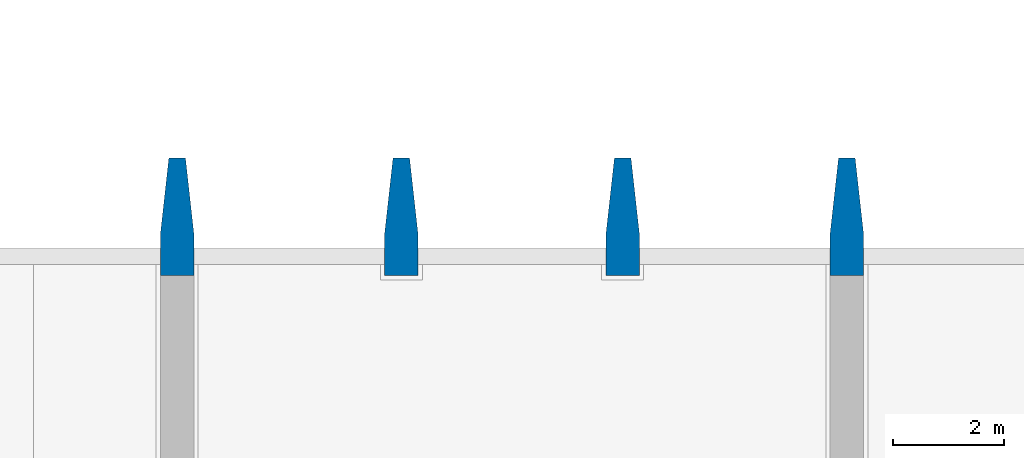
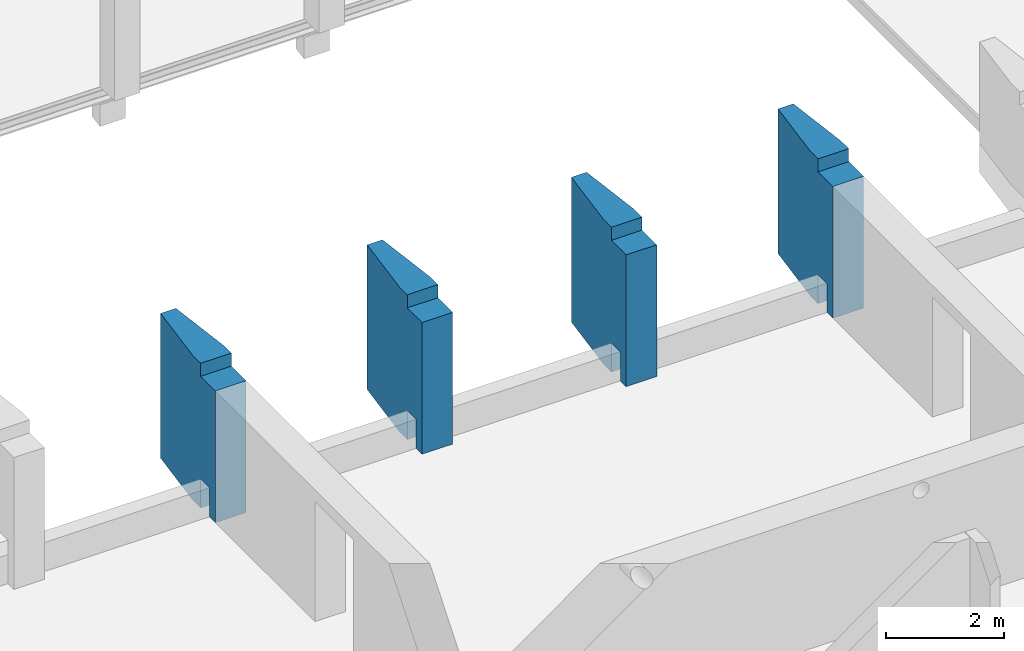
# One storey, part 10 of 10: 4 columns.
"""IFC2X3 building model written with IfcOpenShell, lengths in millimetres."""

from ifc_helpers import new_model, entity, si_unit, converted_unit, derived_unit, direction, frame, origin, place, context, subcontext, project, spatial, faceted_brep, source, transform, mapped, material, type_object, type_shapes, element, save


model = new_model("IFC2X3")

# Units and contexts
model_context = context("Model", 3, precision=0.01, world=origin(), true_north=direction((6.12303176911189e-17, 1.0)))
body_context = subcontext(model_context, "Body", "Model", "MODEL_VIEW")
ifc_project = project(units=[si_unit("LENGTHUNIT", "METRE", prefix="MILLI"), si_unit("AREAUNIT", "SQUARE_METRE"), si_unit("VOLUMEUNIT", "CUBIC_METRE"), converted_unit("PLANEANGLEUNIT", "DEGREE", entity("IfcRatioMeasure", 0.0174532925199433), si_unit("PLANEANGLEUNIT", "RADIAN"), dimensions=[0, 0, 0, 0, 0, 0, 0]), si_unit("MASSUNIT", "GRAM", prefix="KILO"), derived_unit("MASSDENSITYUNIT", [(si_unit("MASSUNIT", "GRAM", prefix="KILO"), 1), (si_unit("LENGTHUNIT", "METRE"), -3)]), si_unit("TIMEUNIT", "SECOND"), si_unit("FREQUENCYUNIT", "HERTZ"), si_unit("THERMODYNAMICTEMPERATUREUNIT", "DEGREE_CELSIUS"), derived_unit("THERMALTRANSMITTANCEUNIT", [(si_unit("MASSUNIT", "GRAM", prefix="KILO"), 1), (si_unit("THERMODYNAMICTEMPERATUREUNIT", "KELVIN"), -1), (si_unit("TIMEUNIT", "SECOND"), -3)]), derived_unit("VOLUMETRICFLOWRATEUNIT", [(si_unit("LENGTHUNIT", "METRE"), 3), (si_unit("TIMEUNIT", "SECOND"), -1)]), si_unit("ELECTRICCURRENTUNIT", "AMPERE"), si_unit("ELECTRICVOLTAGEUNIT", "VOLT"), si_unit("POWERUNIT", "WATT"), si_unit("FORCEUNIT", "NEWTON", prefix="KILO"), si_unit("ILLUMINANCEUNIT", "LUX"), si_unit("LUMINOUSFLUXUNIT", "LUMEN"), si_unit("LUMINOUSINTENSITYUNIT", "CANDELA"), derived_unit("USERDEFINED", [(si_unit("MASSUNIT", "GRAM", prefix="KILO"), -1), (si_unit("LENGTHUNIT", "METRE"), -2), (si_unit("TIMEUNIT", "SECOND"), 3), (si_unit("LUMINOUSFLUXUNIT", "LUMEN"), 1)]), derived_unit("LINEARVELOCITYUNIT", [(si_unit("LENGTHUNIT", "METRE"), 1), (si_unit("TIMEUNIT", "SECOND"), -1)]), si_unit("PRESSUREUNIT", "PASCAL"), derived_unit("USERDEFINED", [(si_unit("LENGTHUNIT", "METRE"), -2), (si_unit("MASSUNIT", "GRAM", prefix="KILO"), 1), (si_unit("TIMEUNIT", "SECOND"), -2)])], contexts=[model_context])

# Site, building, storey
site_placement = place(None, origin())
site = spatial("IfcSite", under=ifc_project, at=site_placement, Name="Default", CompositionType="ELEMENT")
building_placement = place(site_placement, origin())
building = spatial("IfcBuilding", under=site, at=building_placement, Name="niet gebruiken", CompositionType="ELEMENT")
storey_placement = place(building_placement, frame((0.0, 0.0, 9000.0)))
storey = spatial("IfcBuildingStorey", under=building, at=storey_placement, Name="02 tweede verdieping", CompositionType="ELEMENT", Elevation=9000.00000000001)

# Columns
ifc_material = material(Name="NLRS_f2_beton ihwg")
column_type_1 = type_object("IfcColumnType", Name="600/300x2120/770", PredefinedType="COLUMN", material=ifc_material)
shared_shape_1 = source(origin(), body_context, "Body", "Brep", [
    faceted_brep([(600.0, 770.0, 3000.0), (450.0, 2120.0, 3000.0), (150.0, 2120.0, 3000.0), (0.0, 770.0, 3000.0), (0.0, 500.0, 3000.0), (600.0, 500.0, 3000.0), (0.0, 770.0, 0.0), (150.0, 2120.0, 0.0), (450.0, 2120.0, 0.0), (600.0, 770.0, 0.0), (600.0, 500.0, 0.0), (0.0, 500.0, 0.0), (600.0, 500.0, 2730.0), (600.0, 0.0, 2730.0), (600.0, 0.0, 0.0), (600.0, 200.0, 0.0), (600.0, 200.0, 600.0), (600.0, 500.0, 600.0), (0.0, 500.0, 600.0), (0.0, 200.0, 600.0), (0.0, 200.0, 0.0), (0.0, 0.0, 0.0), (0.0, 0.0, 2730.0), (0.0, 500.0, 2730.0)], [[[0, 1, 2, 3, 4, 5]], [[6, 7, 8, 9, 10, 11]], [[9, 0, 5, 12, 13, 14, 15, 16, 17, 10]], [[2, 1, 8, 7]], [[3, 6, 11, 18, 19, 20, 21, 22, 23, 4]], [[21, 14, 13, 22]], [[1, 0, 9, 8]], [[3, 2, 7, 6]], [[19, 16, 15, 20]], [[17, 18, 11, 10]], [[16, 19, 18, 17]], [[14, 21, 20, 15]], [[12, 23, 22, 13]], [[23, 12, 5, 4]]]),
])
type_shapes(column_type_1, [shared_shape_1])
column_1_placement = place(storey_placement, frame((147500.0, 32730.0, -90.0)))
element("IfcColumn", 1, at=column_1_placement, inside=storey, type_object=column_type_1, material=ifc_material, Name="NLRS_28.11_SCO_TLB_beton kolom ihwg V vorm_gen:600/300x2120/770", ObjectType="600/300x2120/770", context=body_context, shape_type="MappedRepresentation", body=[
    mapped(shared_shape_1, transform((0.0, 0.0, 0.0), scale=1.0)),
])
column_type_2 = type_object("IfcColumnType", Name="600/300x2120/770", PredefinedType="COLUMN", material=ifc_material)
shared_shape_2 = source(origin(), body_context, "Body", "Brep", [
    faceted_brep([(600.0, 770.0, 3000.0), (450.0, 2120.0, 3000.0), (150.0, 2120.0, 3000.0), (0.0, 770.0, 3000.0), (0.0, 500.0, 3000.0), (600.0, 500.0, 3000.0), (0.0, 770.0, 0.0), (150.0, 2120.0, 0.0), (450.0, 2120.0, 0.0), (600.0, 770.0, 0.0), (600.0, 500.0, 0.0), (0.0, 500.0, 0.0), (600.0, 500.0, 2730.0), (600.0, 0.0, 2730.0), (600.0, 0.0, 0.0), (600.0, 200.0, 0.0), (600.0, 200.0, 600.0), (600.0, 500.0, 600.0), (0.0, 500.0, 600.0), (0.0, 200.0, 600.0), (0.0, 200.0, 0.0), (0.0, 0.0, 0.0), (0.0, 0.0, 2730.0), (0.0, 500.0, 2730.0)], [[[0, 1, 2, 3, 4, 5]], [[6, 7, 8, 9, 10, 11]], [[9, 0, 5, 12, 13, 14, 15, 16, 17, 10]], [[2, 1, 8, 7]], [[3, 6, 11, 18, 19, 20, 21, 22, 23, 4]], [[21, 14, 13, 22]], [[1, 0, 9, 8]], [[3, 2, 7, 6]], [[19, 16, 15, 20]], [[17, 18, 11, 10]], [[16, 19, 18, 17]], [[14, 21, 20, 15]], [[12, 23, 22, 13]], [[23, 12, 5, 4]]]),
])
type_shapes(column_type_2, [shared_shape_2])
column_2_placement = place(storey_placement, frame((143450.0, 32730.0, -90.0)))
element("IfcColumn", 2, at=column_2_placement, inside=storey, type_object=column_type_2, material=ifc_material, Name="NLRS_28.11_SCO_TLB_beton kolom ihwg V vorm_gen:600/300x2120/770", ObjectType="600/300x2120/770", context=body_context, shape_type="MappedRepresentation", body=[
    mapped(shared_shape_2, transform((0.0, 0.0, 0.0), scale=1.0)),
])
column_type_3 = type_object("IfcColumnType", Name="600/300x2120/770", PredefinedType="COLUMN", material=ifc_material)
shared_shape_3 = source(origin(), body_context, "Body", "Brep", [
    faceted_brep([(600.0, 770.0, 3000.0), (450.0, 2120.0, 3000.0), (150.0, 2120.0, 3000.0), (0.0, 770.0, 3000.0), (0.0, 500.0, 3000.0), (600.0, 500.0, 3000.0), (0.0, 770.0, 0.0), (150.0, 2120.0, 0.0), (450.0, 2120.0, 0.0), (600.0, 770.0, 0.0), (600.0, 500.0, 0.0), (0.0, 500.0, 0.0), (600.0, 500.0, 2730.0), (600.0, 0.0, 2730.0), (600.0, 0.0, 0.0), (600.0, 200.0, 0.0), (600.0, 200.0, 600.0), (600.0, 500.0, 600.0), (0.0, 500.0, 600.0), (0.0, 200.0, 600.0), (0.0, 200.0, 0.0), (0.0, 0.0, 0.0), (0.0, 0.0, 2730.0), (0.0, 500.0, 2730.0)], [[[0, 1, 2, 3, 4, 5]], [[6, 7, 8, 9, 10, 11]], [[9, 0, 5, 12, 13, 14, 15, 16, 17, 10]], [[2, 1, 8, 7]], [[3, 6, 11, 18, 19, 20, 21, 22, 23, 4]], [[21, 14, 13, 22]], [[1, 0, 9, 8]], [[3, 2, 7, 6]], [[19, 16, 15, 20]], [[17, 18, 11, 10]], [[16, 19, 18, 17]], [[14, 21, 20, 15]], [[12, 23, 22, 13]], [[23, 12, 5, 4]]]),
])
type_shapes(column_type_3, [shared_shape_3])
column_3_placement = place(storey_placement, frame((139450.0, 32730.0, -90.0)))
element("IfcColumn", 3, at=column_3_placement, inside=storey, type_object=column_type_3, material=ifc_material, Name="NLRS_28.11_SCO_TLB_beton kolom ihwg V vorm_gen:600/300x2120/770", ObjectType="600/300x2120/770", context=body_context, shape_type="MappedRepresentation", body=[
    mapped(shared_shape_3, transform((0.0, 0.0, 0.0), scale=1.0)),
])
column_type_4 = type_object("IfcColumnType", Name="600/300x2120/770", PredefinedType="COLUMN", material=ifc_material)
shared_shape_4 = source(origin(), body_context, "Body", "Brep", [
    faceted_brep([(600.0, 770.0, 3000.0), (450.0, 2120.0, 3000.0), (150.0, 2120.0, 3000.0), (0.0, 770.0, 3000.0), (0.0, 500.0, 3000.0), (600.0, 500.0, 3000.0), (0.0, 770.0, 0.0), (150.0, 2120.0, 0.0), (450.0, 2120.0, 0.0), (600.0, 770.0, 0.0), (600.0, 500.0, 0.0), (0.0, 500.0, 0.0), (600.0, 500.0, 2730.0), (600.0, 0.0, 2730.0), (600.0, 0.0, 0.0), (600.0, 200.0, 0.0), (600.0, 200.0, 600.0), (600.0, 500.0, 600.0), (0.0, 500.0, 600.0), (0.0, 200.0, 600.0), (0.0, 200.0, 0.0), (0.0, 0.0, 0.0), (0.0, 0.0, 2730.0), (0.0, 500.0, 2730.0)], [[[0, 1, 2, 3, 4, 5]], [[6, 7, 8, 9, 10, 11]], [[9, 0, 5, 12, 13, 14, 15, 16, 17, 10]], [[2, 1, 8, 7]], [[3, 6, 11, 18, 19, 20, 21, 22, 23, 4]], [[21, 14, 13, 22]], [[1, 0, 9, 8]], [[3, 2, 7, 6]], [[19, 16, 15, 20]], [[17, 18, 11, 10]], [[16, 19, 18, 17]], [[14, 21, 20, 15]], [[12, 23, 22, 13]], [[23, 12, 5, 4]]]),
])
type_shapes(column_type_4, [shared_shape_4])
column_4_placement = place(storey_placement, frame((135400.0, 32730.0, -90.0)))
element("IfcColumn", 4, at=column_4_placement, inside=storey, type_object=column_type_4, material=ifc_material, Name="NLRS_28.11_SCO_TLB_beton kolom ihwg V vorm_gen:600/300x2120/770", ObjectType="600/300x2120/770", context=body_context, shape_type="MappedRepresentation", body=[
    mapped(shared_shape_4, transform((0.0, 0.0, 0.0), scale=1.0)),
])

save(model, "model.ifc")
